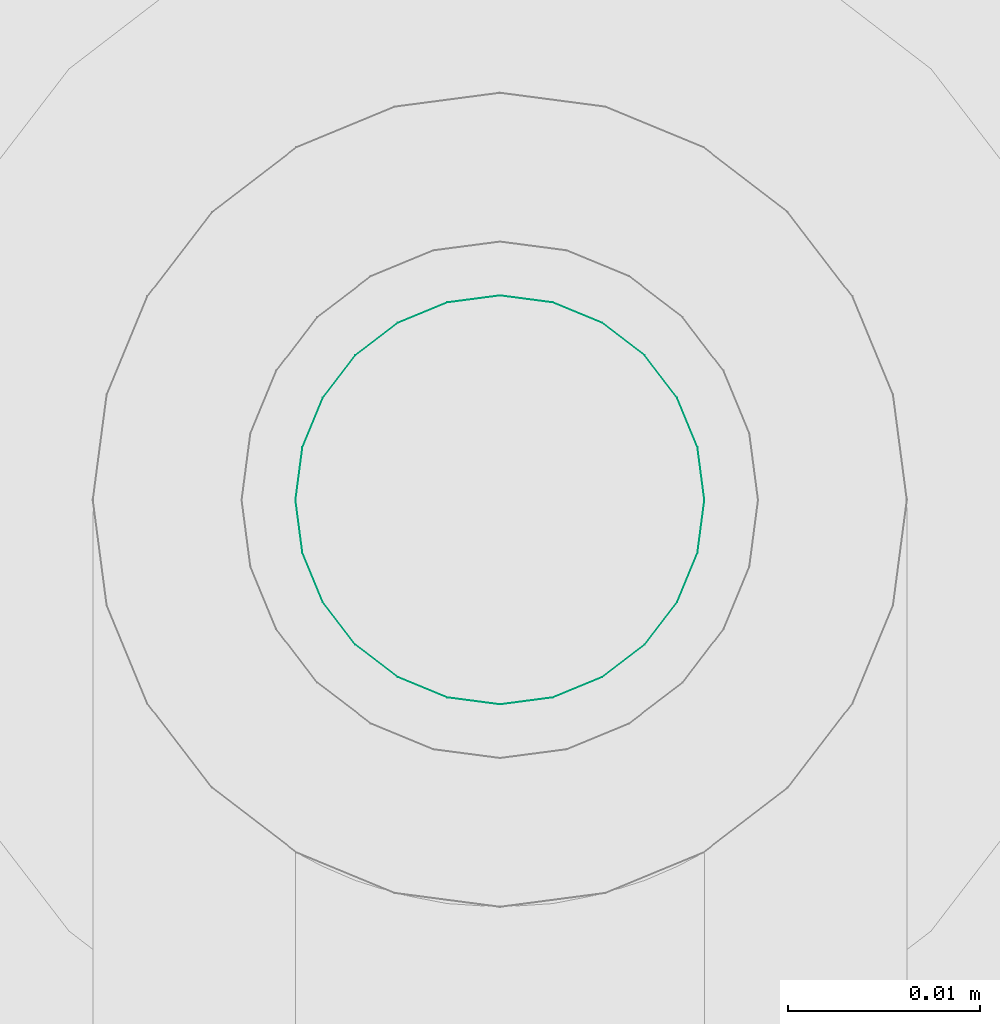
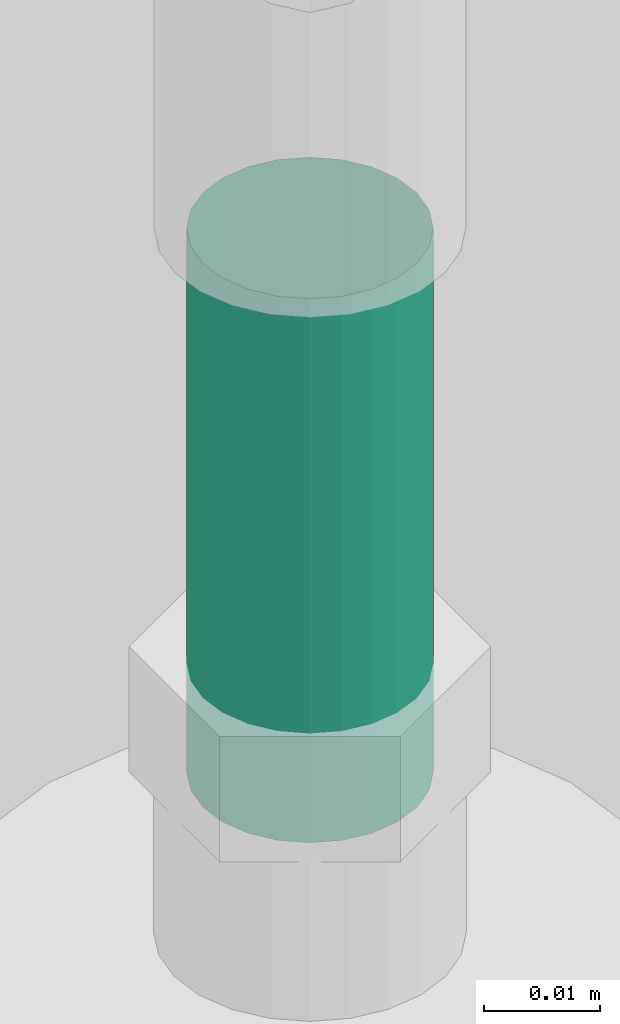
# One storey, part 196 of 374: 1 flow segment.
"""IFC2X3 building model written with IfcOpenShell, lengths in metres."""

from ifc_helpers import new_model, si_unit, direction, origin, place, context, subcontext, project, spatial, open_shell, surface_model, source, transform, mapped, element, save


model = new_model("IFC2X3")

# Units and contexts
model_context = context("Model", 3, precision=1e-05, world=origin(), true_north=direction((-0.4480736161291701, 0.8939966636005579)))
body_context = subcontext(model_context, "Body", "Model", "MODEL_VIEW")
ifc_project = project(units=[si_unit("LENGTHUNIT", "METRE"), si_unit("AREAUNIT", "SQUARE_METRE"), si_unit("VOLUMEUNIT", "CUBIC_METRE"), si_unit("PLANEANGLEUNIT", "RADIAN"), si_unit("THERMODYNAMICTEMPERATUREUNIT", "KELVIN"), si_unit("MASSUNIT", "GRAM", prefix="KILO"), si_unit("TIMEUNIT", "SECOND")], contexts=[model_context])

# Site, building, storey
site_placement = place(None, origin())
site = spatial("IfcSite", under=ifc_project, at=site_placement, Name="Site 1", CompositionType="ELEMENT")
building_placement = place(site_placement, origin())
building = spatial("IfcBuilding", under=site, at=building_placement, Name="Undefined", CompositionType="ELEMENT")
storey_placement = place(building_placement, origin())
storey = spatial("IfcBuildingStorey", under=building, at=storey_placement, Name="Rez de chauss\x8ee", CompositionType="ELEMENT", Elevation=0.0)

# Flow segment
shared_shape = source(origin(), body_context, "Body", "SurfaceModel", [
    surface_model("IfcFaceBasedSurfaceModel", [(1.776356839e-15, 0.0027802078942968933, 0.0), (0.0, 0.0, 0.0), (0.05727120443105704, 0.0, 0.0), (0.05727120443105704, 0.0027802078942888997, 0.0), (0.0, -0.002685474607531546, -0.0007195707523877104), (0.05727120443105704, -0.0026854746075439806, -0.0007195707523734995), (1.776356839e-15, -0.00509320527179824, -0.002109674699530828), (0.05727120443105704, -0.0050932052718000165, -0.0021096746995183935), (1.776356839e-15, -0.007059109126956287, -0.004075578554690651), (0.05727120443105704, -0.007059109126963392, -0.00407557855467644), (0.0, -0.00844921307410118, -0.00648330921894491), (0.05727120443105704, -0.008449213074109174, -0.006483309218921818), (0.0, -0.009168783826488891, -0.009168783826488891), (0.05727120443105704, -0.009168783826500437, -0.009168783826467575), (0.0, -0.009168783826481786, -0.011948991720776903), (0.05727120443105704, -0.009168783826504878, -0.011948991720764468), (1.776356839e-15, -0.00844921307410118, -0.014634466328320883), (0.05727120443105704, -0.00844921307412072, -0.014634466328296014), (1.776356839e-15, -0.007059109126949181, -0.017042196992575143), (0.05727120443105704, -0.007059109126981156, -0.017042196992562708), (0.0, -0.005093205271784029, -0.019008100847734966), (0.05727120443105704, -0.005093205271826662, -0.01900810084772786), (0.0, -0.0026854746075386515, -0.020398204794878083), (0.05727120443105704, -0.0026854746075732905, -0.02039820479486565), (1.776356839e-15, 7.105427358e-15, -0.021117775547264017), (0.05727120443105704, -2.930988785e-14, -0.021117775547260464), (1.776356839e-15, 0.002780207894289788, -0.02111777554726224), (0.05727120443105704, 0.0027802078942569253, -0.021117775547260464), (1.776356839e-15, 0.005465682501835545, -0.020398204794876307), (0.05727120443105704, 0.00546568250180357, -0.020398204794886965), (1.776356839e-15, 0.007873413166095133, -0.01900810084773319), (0.05727120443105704, 0.00787341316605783, -0.01900810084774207), (0.0, 0.00983931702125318, -0.017042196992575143), (0.05727120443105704, 0.009839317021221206, -0.01704219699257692), (1.776356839e-15, 0.011229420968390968, -0.01463446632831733), (0.05727120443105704, 0.0112294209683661, -0.014634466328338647), (1.776356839e-15, 0.011948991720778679, -0.011948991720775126), (0.05727120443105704, 0.011948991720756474, -0.011948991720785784), (1.776356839e-15, 0.011948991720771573, -0.009168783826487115), (0.05727120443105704, 0.011948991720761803, -0.009168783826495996), (0.0, 0.011229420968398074, -0.006483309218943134), (0.05727120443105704, 0.011229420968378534, -0.006483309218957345), (1.776356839e-15, 0.009839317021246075, -0.0040755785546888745), (0.05727120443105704, 0.009839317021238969, -0.004075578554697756), (1.776356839e-15, 0.007873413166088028, -0.0021096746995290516), (0.05727120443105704, 0.007873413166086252, -0.0021096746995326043), (1.776356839e-15, 0.005465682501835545, -0.000719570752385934), (0.05727120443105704, 0.005465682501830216, -0.0007195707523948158)], [open_shell([[[0, 1, 2, 3]], [[1, 4, 5, 2]], [[4, 6, 7, 5]], [[6, 8, 9, 7]], [[8, 10, 11, 9]], [[10, 12, 13, 11]], [[12, 14, 15, 13]], [[14, 16, 17, 15]], [[16, 18, 19, 17]], [[18, 20, 21, 19]], [[20, 22, 23, 21]], [[22, 24, 25, 23]], [[24, 26, 27, 25]], [[26, 28, 29, 27]], [[28, 30, 31, 29]], [[30, 32, 33, 31]], [[32, 34, 35, 33]], [[34, 36, 37, 35]], [[36, 38, 39, 37]], [[38, 40, 41, 39]], [[40, 42, 43, 41]], [[42, 44, 45, 43]], [[44, 46, 47, 45]], [[46, 0, 3, 47]]])]),
])
flow_segment_placement = place(storey_placement, origin())
element("IfcFlowSegment", 1, at=flow_segment_placement, inside=storey, Name="Tube acier d'après DIN 2448", ObjectType="Tube acier d'après DIN 2448", context=body_context, shape_type="MappedRepresentation", body=[
    mapped(shared_shape, transform((53.86784912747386, 10.920793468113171, 2.191920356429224), x_axis=(0.0, 0.0, 1.0), y_axis=(0.13052619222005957, -0.9914448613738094, 0.0), z_axis=(0.9914448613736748, 0.13052619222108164, 0.0))),
])

save(model, "model.ifc")
